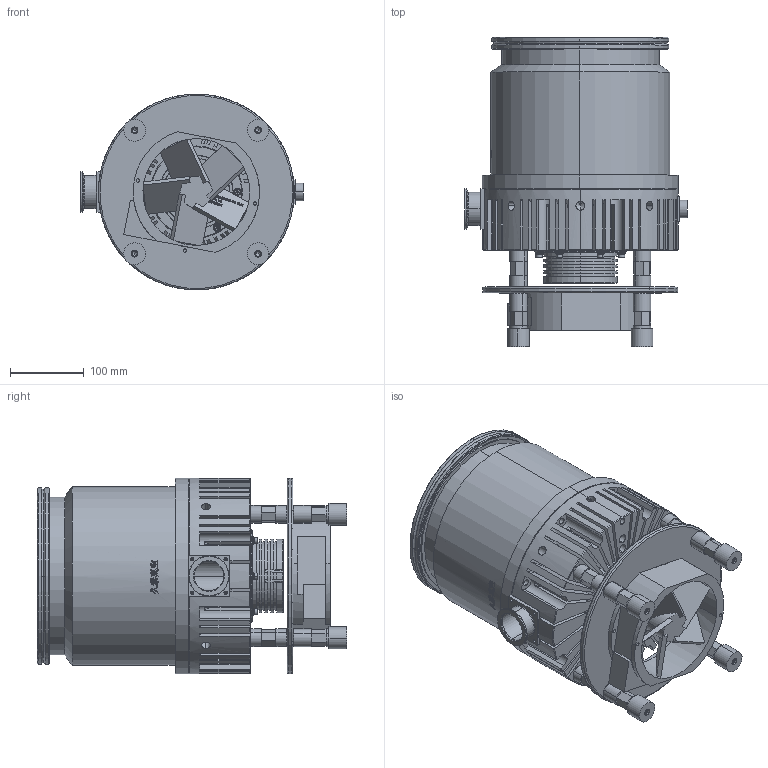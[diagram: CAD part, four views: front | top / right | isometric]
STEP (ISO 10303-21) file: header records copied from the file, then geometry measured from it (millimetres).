
FILE_DESCRIPTION (( 'STEP AP203' ), '1' );
FILE_NAME ('ISO1300JZF-00W.STEP', '2025-03-29T07:03:20', ( 'User' ), ( 'China' ), 'SwSTEP 2.0', 'SolidWorks 2016', '' );
FILE_SCHEMA (( 'CONFIG_CONTROL_DESIGN' ));
Length unit declared in the file: millimetre
Products named in the file (15): 600蝶杶_1; JTFB1300J-18-01-00｣ﾗ; SJJTB-600F-15_1; JTFB1300J-18-00W; plain washers-n series-grade a gb_GB_FASTENER_WASHER_PWNA 5_1; JTFB1300ZF-01W_1; spring lock washers--normal type gb_GB_FASTENER_WASHER_SW 5_1; SJJTB-600-02A_1; hexagon socket head cap screws gb_GB_FASTENER_SCREWS_HSHCS M5X8-N_1; 萇埭諉芛_1; ISO1300JZF-00W; SJJTB-1300F-15_1; SJJTB-1200F-17_1; 瑞圮_1; SJJTB-1200J-14-01-01｣ﾗ
Assembly tree (38 placements, depth 4):
  ISO1300JZF-00W
    JTFB1300J-18-00W
      JTFB1300J-18-01-00｣ﾗ
        SJJTB-1200J-14-01-01｣ﾗ
    JTFB1300ZF-01W_1
    SJJTB-600-02A_1
    萇埭諉芛_1
    SJJTB-1300F-15_1  x4
    SJJTB-1200F-17_1
    瑞圮_1
    600蝶杶_1  x4
    SJJTB-600F-15_1  x4
    plain washers-n series-grade a gb_GB_FASTENER_WASHER_PWNA 5_1  x6
    spring lock washers--normal type gb_GB_FASTENER_WASHER_SW 5_1  x6
    hexagon socket head cap screws gb_GB_FASTENER_SCREWS_HSHCS M5X8-N_1  x6
Bounding box: 302.51 x 420 x 266 mm (x, y, z)
Volume: 14315832.8 mm3; surface area: 1092622.3 mm2
Topology: 36 solids, 87 shells, 4384 faces, 12076 edges, 7929 vertices
Faces by surface type: plane 2457, bspline 1071, cylinder 555, cone 261, torus 40
Entity records: 191022 total; most frequent: CARTESIAN_POINT 94133, ORIENTED_EDGE 22052, DIRECTION 15384, EDGE_CURVE 11026, VECTOR 7310, LINE 7310, VERTEX_POINT 7306, EDGE_LOOP 4270
